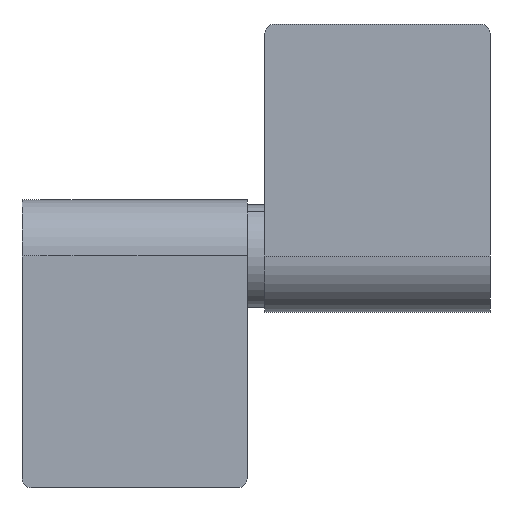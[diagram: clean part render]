
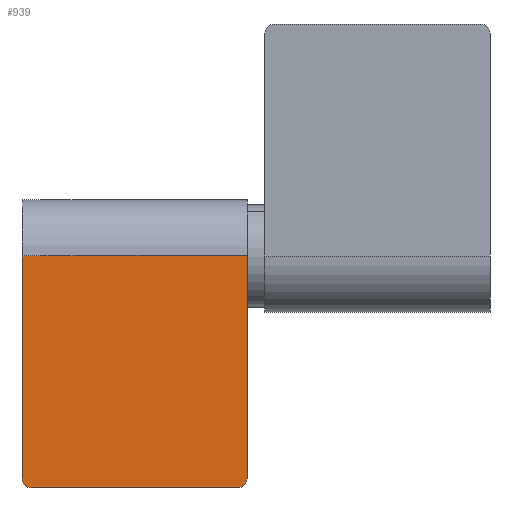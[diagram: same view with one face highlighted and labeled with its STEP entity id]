
A CAD part, front view. The second image highlights one B-rep face of the part: STEP entity #939.
In plain terms, the highlighted planar face has unit normal (0, -1, 0).
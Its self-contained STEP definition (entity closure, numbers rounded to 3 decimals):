
#25 = EDGE_CURVE ( 'NONE', #316, #794, #26, .T. ) ;
#26 = LINE ( 'NONE', #483, #721 ) ;
#39 = EDGE_CURVE ( 'NONE', #603, #890, #398, .T. ) ;
#40 = DIRECTION ( 'NONE',  ( -1., 0., 0. ) ) ;
#60 = ORIENTED_EDGE ( 'NONE', *, *, #39, .F. ) ;
#97 = AXIS2_PLACEMENT_3D ( 'NONE', #496, #505, #786 ) ;
#117 = EDGE_CURVE ( 'NONE', #603, #565, #372, .T. ) ;
#140 = CARTESIAN_POINT ( 'NONE',  ( 11.5, 0., -25.75 ) ) ;
#169 = EDGE_LOOP ( 'NONE', ( #912, #664, #60, #691, #471, #183 ) ) ;
#183 = ORIENTED_EDGE ( 'NONE', *, *, #809, .T. ) ;
#188 = CARTESIAN_POINT ( 'NONE',  ( 12.5, 0., 0. ) ) ;
#218 = DIRECTION ( 'NONE',  ( 0., 1., 0. ) ) ;
#282 = FACE_OUTER_BOUND ( 'NONE', #169, .T. ) ;
#288 = VERTEX_POINT ( 'NONE', #875 ) ;
#316 = VERTEX_POINT ( 'NONE', #529 ) ;
#323 = DIRECTION ( 'NONE',  ( 0., 0., -1. ) ) ;
#335 = DIRECTION ( 'NONE',  ( 0., 0., -1. ) ) ;
#348 = DIRECTION ( 'NONE',  ( 0., -1., 0. ) ) ;
#372 = CIRCLE ( 'NONE', #859, 1. ) ;
#391 = VECTOR ( 'NONE', #40, 1000. ) ;
#398 = LINE ( 'NONE', #931, #514 ) ;
#470 = DIRECTION ( 'NONE',  ( -1., 0., 0. ) ) ;
#471 = ORIENTED_EDGE ( 'NONE', *, *, #672, .F. ) ;
#483 = CARTESIAN_POINT ( 'NONE',  ( -12.5, 0., 0. ) ) ;
#496 = CARTESIAN_POINT ( 'NONE',  ( -11.5, 0., -24.75 ) ) ;
#505 = DIRECTION ( 'NONE',  ( 0., -1., 0. ) ) ;
#506 = CARTESIAN_POINT ( 'NONE',  ( 11.5, 0., -24.75 ) ) ;
#513 = DIRECTION ( 'NONE',  ( 0., 0., 1. ) ) ;
#514 = VECTOR ( 'NONE', #470, 1000. ) ;
#522 = DIRECTION ( 'NONE',  ( 0., 0., 1. ) ) ;
#529 = CARTESIAN_POINT ( 'NONE',  ( -12.5, 0., 0. ) ) ;
#550 = CARTESIAN_POINT ( 'NONE',  ( 12.5, 0., 0. ) ) ;
#565 = VERTEX_POINT ( 'NONE', #661 ) ;
#586 = CARTESIAN_POINT ( 'NONE',  ( -11.5, 0., -25.75 ) ) ;
#603 = VERTEX_POINT ( 'NONE', #140 ) ;
#638 = CIRCLE ( 'NONE', #97, 1. ) ;
#661 = CARTESIAN_POINT ( 'NONE',  ( 12.5, 0., -24.75 ) ) ;
#664 = ORIENTED_EDGE ( 'NONE', *, *, #846, .T. ) ;
#672 = EDGE_CURVE ( 'NONE', #288, #565, #834, .T. ) ;
#691 = ORIENTED_EDGE ( 'NONE', *, *, #117, .T. ) ;
#721 = VECTOR ( 'NONE', #335, 1000. ) ;
#731 = CARTESIAN_POINT ( 'NONE',  ( 12.5, 0., 0. ) ) ;
#764 = AXIS2_PLACEMENT_3D ( 'NONE', #731, #218, #522 ) ;
#786 = DIRECTION ( 'NONE',  ( 0., 0., 1. ) ) ;
#794 = VERTEX_POINT ( 'NONE', #943 ) ;
#809 = EDGE_CURVE ( 'NONE', #288, #316, #864, .T. ) ;
#827 = VECTOR ( 'NONE', #323, 1000. ) ;
#834 = LINE ( 'NONE', #550, #827 ) ;
#846 = EDGE_CURVE ( 'NONE', #794, #890, #638, .T. ) ;
#859 = AXIS2_PLACEMENT_3D ( 'NONE', #506, #348, #513 ) ;
#864 = LINE ( 'NONE', #188, #391 ) ;
#875 = CARTESIAN_POINT ( 'NONE',  ( 12.5, 0., 0. ) ) ;
#880 = PLANE ( 'NONE',  #764 ) ;
#890 = VERTEX_POINT ( 'NONE', #586 ) ;
#912 = ORIENTED_EDGE ( 'NONE', *, *, #25, .T. ) ;
#931 = CARTESIAN_POINT ( 'NONE',  ( 12.5, 0., -25.75 ) ) ;
#939 = ADVANCED_FACE ( 'NONE', ( #282 ), #880, .F. ) ;
#943 = CARTESIAN_POINT ( 'NONE',  ( -12.5, 0., -24.75 ) ) ;
